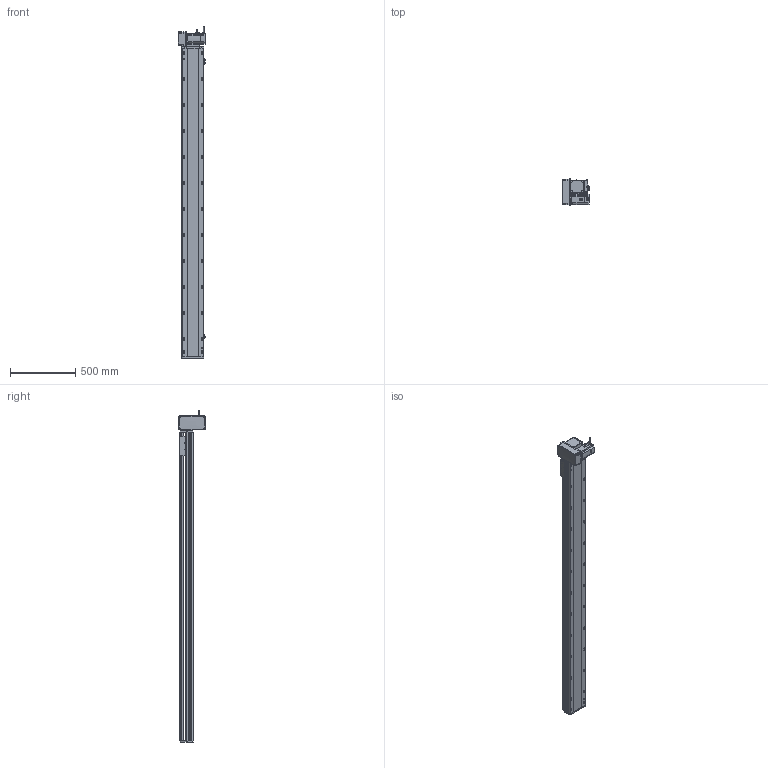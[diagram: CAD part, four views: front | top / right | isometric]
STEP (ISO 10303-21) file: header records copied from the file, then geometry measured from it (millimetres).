
FILE_DESCRIPTION (( 'STEP AP214' ), '1' );
FILE_NAME ('RTB17S-XX-2100-LM-M75-C4.STEP', '2025-12-12T00:44:45', ( '' ), ( '' ), 'SwSTEP 2.0', 'SolidWorks 2018', '' );
FILE_SCHEMA (( 'AUTOMOTIVE_DESIGN' ));
Length unit declared in the file: millimetre
Products named in the file (15): RTB22S-GY-018P^RTB17S-LM-々湍釱蚾饜-750W_RTB17S-XX-XX-LM-M75-C4; EE672^RTB17S-XX-XX-LM-M75-C4; RTB17S-LM-々湍釱蚾饜-750W^RTB17S-XX-XX-LM-M75-C4; RTB22S-GY-017P^RTB17S-LM-々湍釱蚾饜-750W_RTB17S-XX-XX-LM-M75-C4; RTB17-R-011菁釱^RTB17S-XX-XX-LM-M75-C4; RTB17S-L-007奻裔^RTB17S-XX-XX-LM-M75-C4; RTB22S-GY-008-M75--萇儂啣^RTB17S-LM-々湍釱蚾饜-750W_RTB17S-XX-XX-LM-M75-C4; RTB17S-賑釱^RTB17S-XX-XX-LM-M75-C4; RTB17S-L-004-賑釱^RTB17S-賑釱_RTB17S-XX-XX-LM-M75-C4; 750W萇儂^RTB17S-XX-XX-LM-M75-C4; RTB17S-XX-2100-LM-M75-C4; RTB17S-L-001-耜醱啣^RTB17S-XX-XX-LM-M75-C4; RTB17S-L-014-T20-P75--々湍釱^RTB17S-LM-々湍釱蚾饜-750W_RTB17S-XX-XX-LM-M75-C4; RTH13-BL-012覜茼え俋离^RTB17S-賑釱_RTB17S-XX-XX-LM-M75-C4; RTB22S-GY-005P^RTB17S-LM-々湍釱蚾饜-750W_RTB17S-XX-XX-LM-M75-C4
Assembly tree (17 placements, depth 3):
  RTB17S-XX-2100-LM-M75-C4
    RTB17-R-011菁釱^RTB17S-XX-XX-LM-M75-C4
    EE672^RTB17S-XX-XX-LM-M75-C4  x3
    RTB17S-L-001-耜醱啣^RTB17S-XX-XX-LM-M75-C4
    RTB17S-賑釱^RTB17S-XX-XX-LM-M75-C4
      RTB17S-L-004-賑釱^RTB17S-賑釱_RTB17S-XX-XX-LM-M75-C4
      RTH13-BL-012覜茼え俋离^RTB17S-賑釱_RTB17S-XX-XX-LM-M75-C4
    RTB17S-L-007奻裔^RTB17S-XX-XX-LM-M75-C4
    750W萇儂^RTB17S-XX-XX-LM-M75-C4
    RTB17S-LM-々湍釱蚾饜-750W^RTB17S-XX-XX-LM-M75-C4
      RTB17S-L-014-T20-P75--々湍釱^RTB17S-LM-々湍釱蚾饜-750W_RTB17S-XX-XX-LM-M75-C4
      RTB22S-GY-005P^RTB17S-LM-々湍釱蚾饜-750W_RTB17S-XX-XX-LM-M75-C4
      RTB22S-GY-017P^RTB17S-LM-々湍釱蚾饜-750W_RTB17S-XX-XX-LM-M75-C4  x2
      RTB22S-GY-008-M75--萇儂啣^RTB17S-LM-々湍釱蚾饜-750W_RTB17S-XX-XX-LM-M75-C4
      RTB22S-GY-018P^RTB17S-LM-々湍釱蚾饜-750W_RTB17S-XX-XX-LM-M75-C4
Bounding box: 210.4 x 200 x 2552.2 mm (x, y, z)
Volume: 19074792.7 mm3; surface area: 3422980.5 mm2
Topology: 17 solids, 17 shells, 2185 faces, 6106 edges, 3950 vertices
Faces by surface type: plane 982, cylinder 787, bspline 294, cone 110, sphere 8, torus 4
Entity records: 62710 total; most frequent: CARTESIAN_POINT 18570, ORIENTED_EDGE 9056, DIRECTION 8402, EDGE_CURVE 4528, AXIS2_PLACEMENT_3D 2970, VERTEX_POINT 2954, VECTOR 2462, LINE 2462
